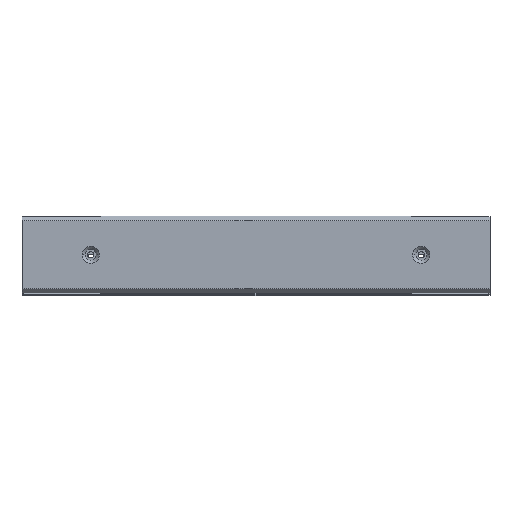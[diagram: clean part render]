
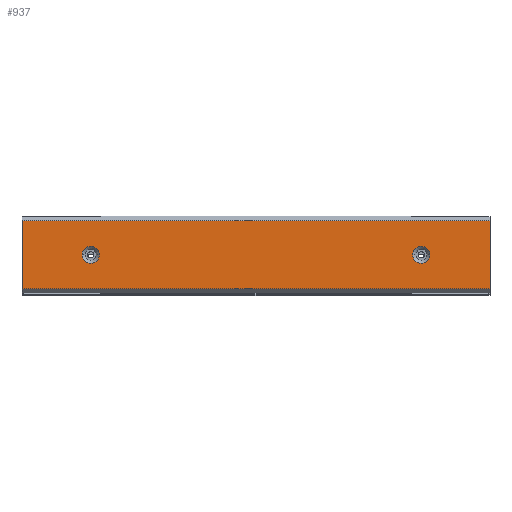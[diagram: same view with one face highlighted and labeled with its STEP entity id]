
A CAD part, top view. The second image highlights one B-rep face of the part: STEP entity #937.
In plain terms, the highlighted planar face has unit normal (0, 0, 1).
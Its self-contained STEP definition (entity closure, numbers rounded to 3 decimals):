
#18 = CIRCLE ( 'NONE', #835, 10.85 ) ;
#36 = ORIENTED_EDGE ( 'NONE', *, *, #1831, .F. ) ;
#38 = CIRCLE ( 'NONE', #1102, 10.85 ) ;
#53 = CARTESIAN_POINT ( 'NONE',  ( -297.5, 43.303, 0. ) ) ;
#59 = CARTESIAN_POINT ( 'NONE',  ( 210.25, 0., 0. ) ) ;
#62 = VERTEX_POINT ( 'NONE', #53 ) ;
#66 = FACE_OUTER_BOUND ( 'NONE', #1304, .T. ) ;
#193 = AXIS2_PLACEMENT_3D ( 'NONE', #59, #643, #489 ) ;
#195 = VECTOR ( 'NONE', #1107, 1000. ) ;
#199 = CARTESIAN_POINT ( 'NONE',  ( -297.5, -43.303, 0. ) ) ;
#210 = CARTESIAN_POINT ( 'NONE',  ( 199.4, 0., 0. ) ) ;
#218 = CARTESIAN_POINT ( 'NONE',  ( 0., 43.303, 0. ) ) ;
#249 = DIRECTION ( 'NONE',  ( 0., -1., 0. ) ) ;
#254 = EDGE_LOOP ( 'NONE', ( #687, #1855 ) ) ;
#259 = CARTESIAN_POINT ( 'NONE',  ( 210.25, 0., 0. ) ) ;
#264 = EDGE_LOOP ( 'NONE', ( #36, #997 ) ) ;
#278 = DIRECTION ( 'NONE',  ( 0., -1., 0. ) ) ;
#296 = VERTEX_POINT ( 'NONE', #740 ) ;
#325 = EDGE_CURVE ( 'NONE', #1496, #1221, #38, .T. ) ;
#376 = VERTEX_POINT ( 'NONE', #210 ) ;
#381 = EDGE_CURVE ( 'NONE', #376, #1326, #443, .T. ) ;
#386 = LINE ( 'NONE', #513, #532 ) ;
#403 = DIRECTION ( 'NONE',  ( 0., -1., 0. ) ) ;
#443 = CIRCLE ( 'NONE', #193, 10.85 ) ;
#458 = CARTESIAN_POINT ( 'NONE',  ( -199.4, 0., 0. ) ) ;
#487 = EDGE_CURVE ( 'NONE', #882, #935, #1411, .T. ) ;
#489 = DIRECTION ( 'NONE',  ( 0., -1., 0. ) ) ;
#503 = CIRCLE ( 'NONE', #1151, 10.85 ) ;
#507 = EDGE_CURVE ( 'NONE', #882, #62, #386, .T. ) ;
#513 = CARTESIAN_POINT ( 'NONE',  ( -297.5, 43.303, 0. ) ) ;
#514 = DIRECTION ( 'NONE',  ( 0., -1., 0. ) ) ;
#530 = CARTESIAN_POINT ( 'NONE',  ( 0., 43.303, 0. ) ) ;
#532 = VECTOR ( 'NONE', #972, 1000. ) ;
#538 = DIRECTION ( 'NONE',  ( 0., -1., 0. ) ) ;
#545 = EDGE_CURVE ( 'NONE', #296, #935, #1540, .T. ) ;
#553 = ORIENTED_EDGE ( 'NONE', *, *, #487, .T. ) ;
#572 = ORIENTED_EDGE ( 'NONE', *, *, #545, .F. ) ;
#625 = VECTOR ( 'NONE', #249, 1000. ) ;
#643 = DIRECTION ( 'NONE',  ( 0., 0., 1. ) ) ;
#665 = DIRECTION ( 'NONE',  ( 1., 0., 0. ) ) ;
#666 = DIRECTION ( 'NONE',  ( 0., 0., 1. ) ) ;
#687 = ORIENTED_EDGE ( 'NONE', *, *, #1762, .F. ) ;
#701 = DIRECTION ( 'NONE',  ( 0., 0., 1. ) ) ;
#740 = CARTESIAN_POINT ( 'NONE',  ( 297.5, 43.303, 0. ) ) ;
#756 = CARTESIAN_POINT ( 'NONE',  ( -221.1, 0., 0. ) ) ;
#815 = CARTESIAN_POINT ( 'NONE',  ( 297.5, -43.303, 0. ) ) ;
#835 = AXIS2_PLACEMENT_3D ( 'NONE', #1711, #1571, #538 ) ;
#882 = VERTEX_POINT ( 'NONE', #199 ) ;
#935 = VERTEX_POINT ( 'NONE', #815 ) ;
#937 = ADVANCED_FACE ( 'NONE', ( #66, #1243, #1844 ), #1832, .T. ) ;
#972 = DIRECTION ( 'NONE',  ( 0., 1., 0. ) ) ;
#991 = ORIENTED_EDGE ( 'NONE', *, *, #1372, .F. ) ;
#997 = ORIENTED_EDGE ( 'NONE', *, *, #381, .F. ) ;
#1002 = CARTESIAN_POINT ( 'NONE',  ( -210.25, 0., 0. ) ) ;
#1102 = AXIS2_PLACEMENT_3D ( 'NONE', #1002, #1579, #278 ) ;
#1107 = DIRECTION ( 'NONE',  ( 1., 0., 0. ) ) ;
#1151 = AXIS2_PLACEMENT_3D ( 'NONE', #259, #701, #514 ) ;
#1221 = VERTEX_POINT ( 'NONE', #756 ) ;
#1243 = FACE_BOUND ( 'NONE', #264, .T. ) ;
#1303 = AXIS2_PLACEMENT_3D ( 'NONE', #218, #666, #403 ) ;
#1304 = EDGE_LOOP ( 'NONE', ( #991, #1707, #553, #572 ) ) ;
#1326 = VERTEX_POINT ( 'NONE', #1621 ) ;
#1372 = EDGE_CURVE ( 'NONE', #62, #296, #1545, .T. ) ;
#1411 = LINE ( 'NONE', #1558, #195 ) ;
#1496 = VERTEX_POINT ( 'NONE', #458 ) ;
#1540 = LINE ( 'NONE', #1669, #625 ) ;
#1545 = LINE ( 'NONE', #530, #1780 ) ;
#1558 = CARTESIAN_POINT ( 'NONE',  ( 0., -43.303, 0. ) ) ;
#1571 = DIRECTION ( 'NONE',  ( 0., 0., 1. ) ) ;
#1579 = DIRECTION ( 'NONE',  ( 0., 0., 1. ) ) ;
#1621 = CARTESIAN_POINT ( 'NONE',  ( 221.1, 0., 0. ) ) ;
#1669 = CARTESIAN_POINT ( 'NONE',  ( 297.5, 43.303, 0. ) ) ;
#1707 = ORIENTED_EDGE ( 'NONE', *, *, #507, .F. ) ;
#1711 = CARTESIAN_POINT ( 'NONE',  ( -210.25, 0., 0. ) ) ;
#1762 = EDGE_CURVE ( 'NONE', #1221, #1496, #18, .T. ) ;
#1780 = VECTOR ( 'NONE', #665, 1000. ) ;
#1831 = EDGE_CURVE ( 'NONE', #1326, #376, #503, .T. ) ;
#1832 = PLANE ( 'NONE',  #1303 ) ;
#1844 = FACE_BOUND ( 'NONE', #254, .T. ) ;
#1855 = ORIENTED_EDGE ( 'NONE', *, *, #325, .F. ) ;
